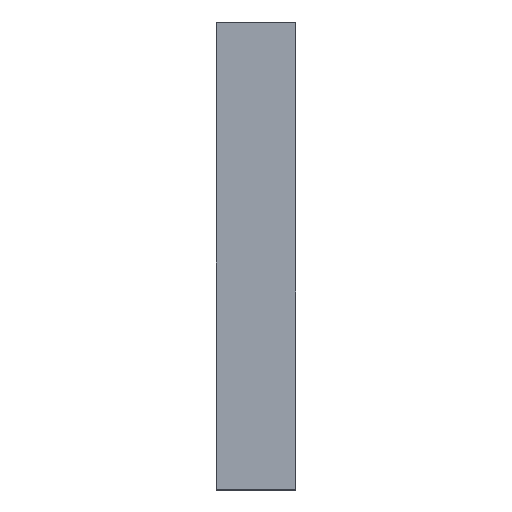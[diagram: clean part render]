
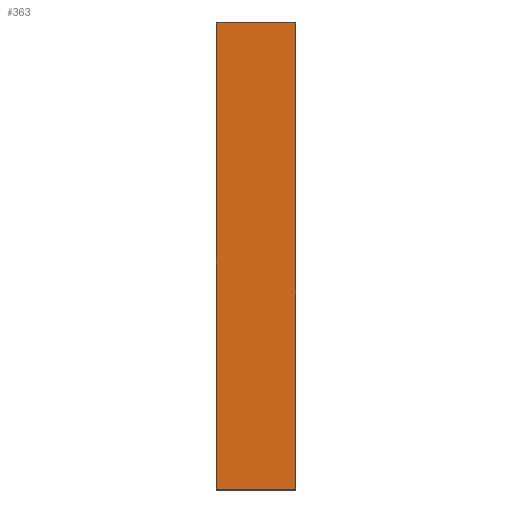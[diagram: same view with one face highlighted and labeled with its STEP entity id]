
A CAD part, top view. The second image highlights one B-rep face of the part: STEP entity #363.
In plain terms, the highlighted planar face has unit normal (0, 0, 1).
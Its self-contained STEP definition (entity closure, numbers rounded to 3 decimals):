
#66 = VERTEX_POINT('',#67);
#67 = CARTESIAN_POINT('',(58.763,50.2,0.103    ));
#73 = EDGE_CURVE('',#66,#74,#76,.T.);
#74 = VERTEX_POINT('',#75);
#75 = CARTESIAN_POINT('',(58.763,99.8,0.103    ));
#76 = LINE('',#77,#78);
#77 = CARTESIAN_POINT('',(58.763,50.2,0.103    ));
#78 = VECTOR('',#79,1.);
#79 = DIRECTION('',(0.,1.,0.));
#104 = EDGE_CURVE('',#74,#105,#107,.T.);
#105 = VERTEX_POINT('',#106);
#106 = CARTESIAN_POINT('',(58.95,99.988,    0.103));
#107 = CIRCLE('',#108,0.187);
#108 = AXIS2_PLACEMENT_3D('',#109,#110,#111);
#109 = CARTESIAN_POINT('',(58.95,99.8,    0.103));
#110 = DIRECTION('',(0.,0.,-1.));
#111 = DIRECTION('',(-1.,0.,0.));
#137 = EDGE_CURVE('',#105,#138,#140,.T.);
#138 = VERTEX_POINT('',#139);
#139 = CARTESIAN_POINT('',(67.05,99.988,    0.103));
#140 = LINE('',#141,#142);
#141 = CARTESIAN_POINT('',(58.95,99.988,    0.103));
#142 = VECTOR('',#143,1.);
#143 = DIRECTION('',(1.,0.,0.));
#168 = EDGE_CURVE('',#138,#169,#171,.T.);
#169 = VERTEX_POINT('',#170);
#170 = CARTESIAN_POINT('',(67.237,99.8,    0.103));
#171 = CIRCLE('',#172,0.187);
#172 = AXIS2_PLACEMENT_3D('',#173,#174,#175);
#173 = CARTESIAN_POINT('',(67.05,99.8,    0.103));
#174 = DIRECTION('',(0.,0.,-1.));
#175 = DIRECTION('',(0.,1.,0.));
#201 = EDGE_CURVE('',#169,#202,#204,.T.);
#202 = VERTEX_POINT('',#203);
#203 = CARTESIAN_POINT('',(67.237,50.203,    0.103));
#204 = LINE('',#205,#206);
#205 = CARTESIAN_POINT('',(67.237,99.8,    0.103));
#206 = VECTOR('',#207,1.);
#207 = DIRECTION('',(0.,-1.,0.));
#232 = EDGE_CURVE('',#202,#233,#235,.T.);
#233 = VERTEX_POINT('',#234);
#234 = CARTESIAN_POINT('',(67.05,50.013,    0.103));
#235 = CIRCLE('',#236,0.189);
#236 = AXIS2_PLACEMENT_3D('',#237,#238,#239);
#237 = CARTESIAN_POINT('',(67.048,50.202,0.103    ));
#238 = DIRECTION('',(0.,0.,-1.));
#239 = DIRECTION('',(1.,0.007,0.));
#265 = EDGE_CURVE('',#233,#266,#268,.T.);
#266 = VERTEX_POINT('',#267);
#267 = CARTESIAN_POINT('',(58.95,50.013,    0.103));
#268 = LINE('',#269,#270);
#269 = CARTESIAN_POINT('',(67.05,50.013,    0.103));
#270 = VECTOR('',#271,1.);
#271 = DIRECTION('',(-1.,0.,0.));
#296 = EDGE_CURVE('',#266,#297,#299,.T.);
#297 = VERTEX_POINT('',#298);
#298 = CARTESIAN_POINT('',(58.762,50.197,    0.103));
#299 = CIRCLE('',#300,0.187);
#300 = AXIS2_PLACEMENT_3D('',#301,#302,#303);
#301 = CARTESIAN_POINT('',(58.95,50.2,    0.103));
#302 = DIRECTION('',(0.,0.,-1.));
#303 = DIRECTION('',(0.,-1.,-0.));
#329 = EDGE_CURVE('',#297,#66,#330,.T.);
#330 = LINE('',#331,#332);
#331 = CARTESIAN_POINT('',(58.762,50.197,    0.103));
#332 = VECTOR('',#333,1.);
#333 = DIRECTION('',(0.122,0.993,0.));
#363 = ADVANCED_FACE('',(#364),#375,.F.);
#364 = FACE_BOUND('',#365,.F.);
#365 = EDGE_LOOP('',(#366,#367,#368,#369,#370,#371,#372,#373,#374));
#366 = ORIENTED_EDGE('',*,*,#73,.T.);
#367 = ORIENTED_EDGE('',*,*,#104,.T.);
#368 = ORIENTED_EDGE('',*,*,#137,.T.);
#369 = ORIENTED_EDGE('',*,*,#168,.T.);
#370 = ORIENTED_EDGE('',*,*,#201,.T.);
#371 = ORIENTED_EDGE('',*,*,#232,.T.);
#372 = ORIENTED_EDGE('',*,*,#265,.T.);
#373 = ORIENTED_EDGE('',*,*,#296,.T.);
#374 = ORIENTED_EDGE('',*,*,#329,.T.);
#375 = PLANE('',#376);
#376 = AXIS2_PLACEMENT_3D('',#377,#378,#379);
#377 = CARTESIAN_POINT('',(63.,75.,    0.103));
#378 = DIRECTION('',(-0.,-0.,-1.));
#379 = DIRECTION('',(-1.,0.,0.));
